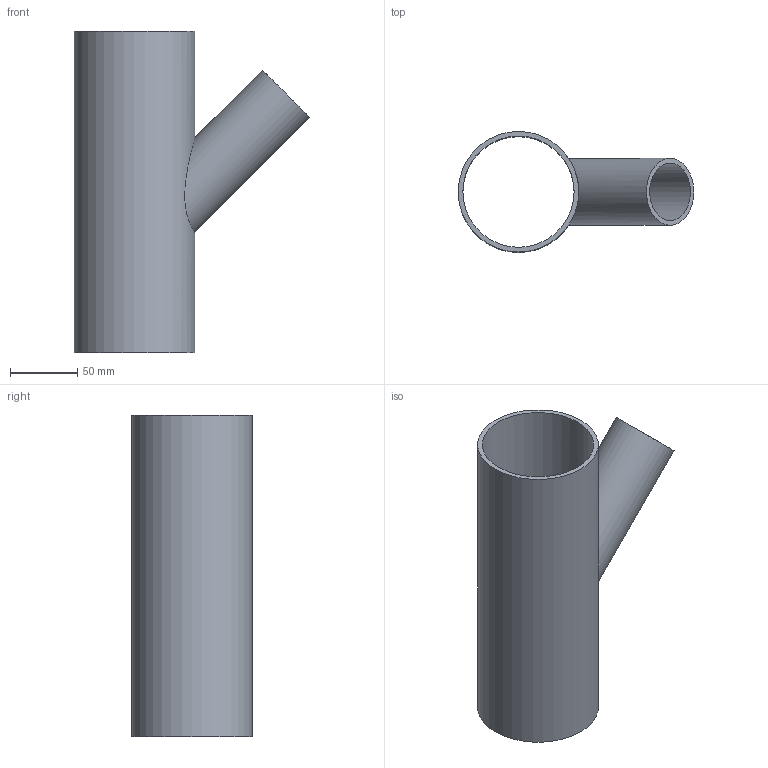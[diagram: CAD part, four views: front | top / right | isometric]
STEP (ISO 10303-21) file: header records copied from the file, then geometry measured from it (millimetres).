
FILE_DESCRIPTION(/* description */ (''),/* implementation_level */ '2;1');
FILE_NAME(/* name */ 'C:\Planerdaten\Export PLA\PRO_101557\stp\366112.stp',/* time_stamp */ '2021-09-30T15:05:27+02:00',/* author */ ('JANAN'),/* organization */ (''),/* preprocessor_version */ 'ST-DEVELOPER v16.13',/* originating_system */ 'Autodesk Inventor 2018',/* authorisation */ '');
FILE_SCHEMA (('AUTOMOTIVE_DESIGN { 1 0 10303 214 3 1 1 }'));
Length unit declared in the file: millimetre
Products named in the file (1): tmpCA12.tmp
Bounding box: 175.81 x 90 x 240 mm (x, y, z)
Volume: 272392.8 mm3; surface area: 158026.6 mm2
Topology: 1 solids, 1 shells, 7 faces, 17 edges, 12 vertices
Faces by surface type: cylinder 4, plane 3
Full cylindrical faces by diameter (mm): 43 x1, 50 x1, 83 x1, 90 x1
Entity records: 312 total; most frequent: CARTESIAN_POINT 134, DIRECTION 28, EDGE_LOOP 16, ORIENTED_EDGE 16, AXIS2_PLACEMENT_3D 14, FACE_BOUND 9, VERTEX_POINT 8, EDGE_CURVE 8
